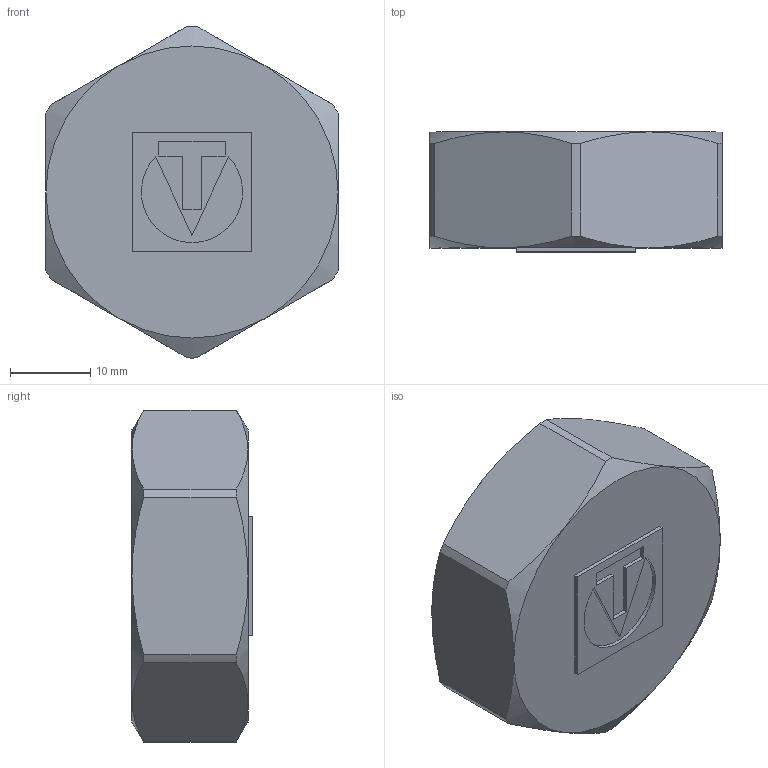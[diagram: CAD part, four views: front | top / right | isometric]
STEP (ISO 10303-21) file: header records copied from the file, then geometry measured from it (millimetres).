
FILE_DESCRIPTION(('STEP AP203'), '1');
FILE_NAME('ÂÐ.752513.012 - VTr.590.N.0006 Çàãë. ðåçüá', '2024-07-08T07:25:55', ('Boss'), (''), 'C3D Converter', 'C3D Toolkit', '');
FILE_SCHEMA(('CONFIG_CONTROL_DESIGN'));
Length unit declared in the file: millimetre
Products named in the file (1): ВР.752513.012
Bounding box: 36.5 x 15 x 41.5 mm (x, y, z)
Volume: 7865.3 mm3; surface area: 5137.6 mm2
Topology: 1 solids, 1 shells, 47 faces, 110 edges, 69 vertices
Faces by surface type: plane 26, cone 13, cylinder 8
Full cylindrical faces by diameter (mm): 30.292 x1
Entity records: 1886 total; most frequent: CARTESIAN_POINT 847, ORIENTED_EDGE 208, DIRECTION 201, EDGE_CURVE 104, AXIS2_PLACEMENT_3D 73, VERTEX_POINT 67, LINE 55, VECTOR 55
